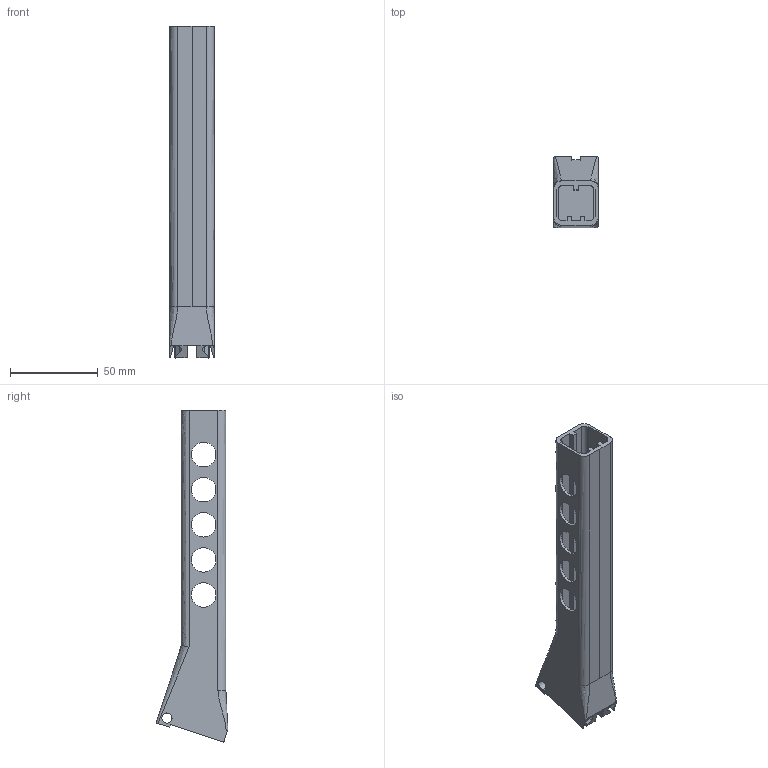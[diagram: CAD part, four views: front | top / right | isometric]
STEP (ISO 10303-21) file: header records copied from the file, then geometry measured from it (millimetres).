
FILE_DESCRIPTION (( 'STEP AP203' ), '1' );
FILE_NAME ('43X 93R style stocktube.STEP', '2020-12-17T02:28:42', ( '' ), ( '' ), 'SwSTEP 2.0', 'SolidWorks 2016', '' );
FILE_SCHEMA (( 'CONFIG_CONTROL_DESIGN' ));
Length unit declared in the file: millimetre
Products named in the file (1): 43X 93R style stocktube
Bounding box: 25.4 x 40.82 x 189.2 mm (x, y, z)
Volume: 53088 mm3; surface area: 34627.7 mm2
Topology: 1 solids, 1 shells, 101 faces, 290 edges, 192 vertices
Faces by surface type: plane 58, cylinder 35, bspline 8
Entity records: 3747 total; most frequent: CARTESIAN_POINT 1014, ORIENTED_EDGE 580, DIRECTION 512, EDGE_CURVE 290, LINE 192, VERTEX_POINT 192, VECTOR 192, AXIS2_PLACEMENT_3D 160
